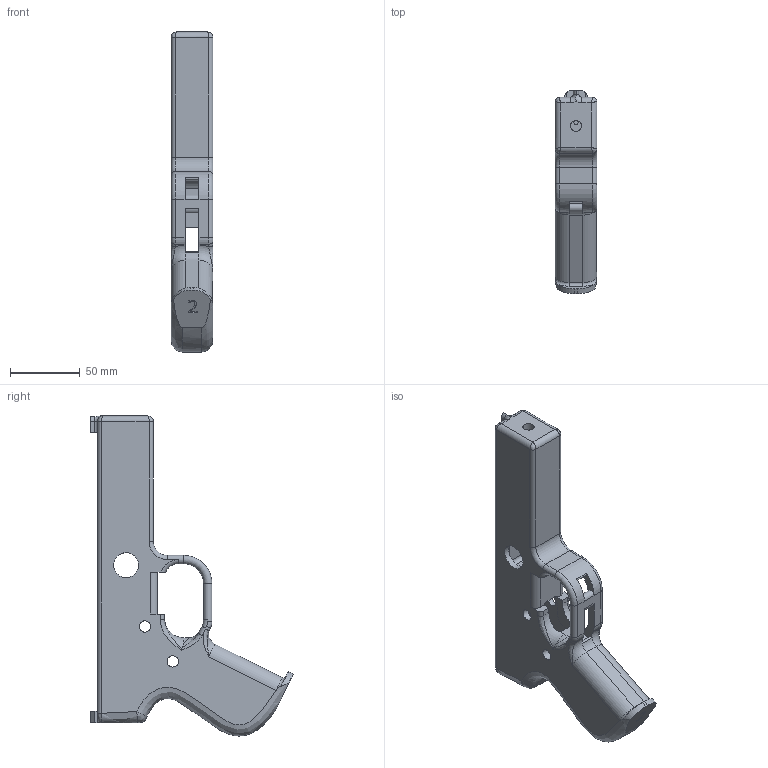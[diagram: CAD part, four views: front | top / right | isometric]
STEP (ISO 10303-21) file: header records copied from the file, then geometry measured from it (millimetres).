
FILE_DESCRIPTION(/* description */ (''),/* implementation_level */ '2;1');
FILE_NAME(/* name */ 'C:/Users/Owner/Desktop/K-CAD Songbird PM4 Centerfire/Xtra/Songbird PM422 frame without Patrick''s name STEP.step',/* time_stamp */ '2020-12-05T17:00:17-05:00',/* author */ (''),/* organization */ (''),/* preprocessor_version */ 'ST-DEVELOPER v18.1',/* originating_system */ 'Autodesk Translation Framework v9.3.0.1241',/* authorisation */ '');
FILE_SCHEMA (('AUTOMOTIVE_DESIGN { 1 0 10303 214 3 1 1 }'));
Length unit declared in the file: millimetre
Products named in the file (1): Songbird PM422 Original
Bounding box: 30 x 145.5 x 229.5 mm (x, y, z)
Volume: 228773.2 mm3; surface area: 70785.1 mm2
Topology: 1 solids, 1 shells, 286 faces, 775 edges, 478 vertices
Faces by surface type: plane 116, cylinder 98, bspline 36, torus 32, sphere 4
Full cylindrical faces by diameter (mm): 3 x1, 8 x1, 8.1 x4, 12 x3, 18 x1
Entity records: 11131 total; most frequent: CARTESIAN_POINT 4036, ORIENTED_EDGE 1534, DIRECTION 1422, EDGE_CURVE 767, AXIS2_PLACEMENT_3D 516, VERTEX_POINT 478, LINE 390, VECTOR 390
